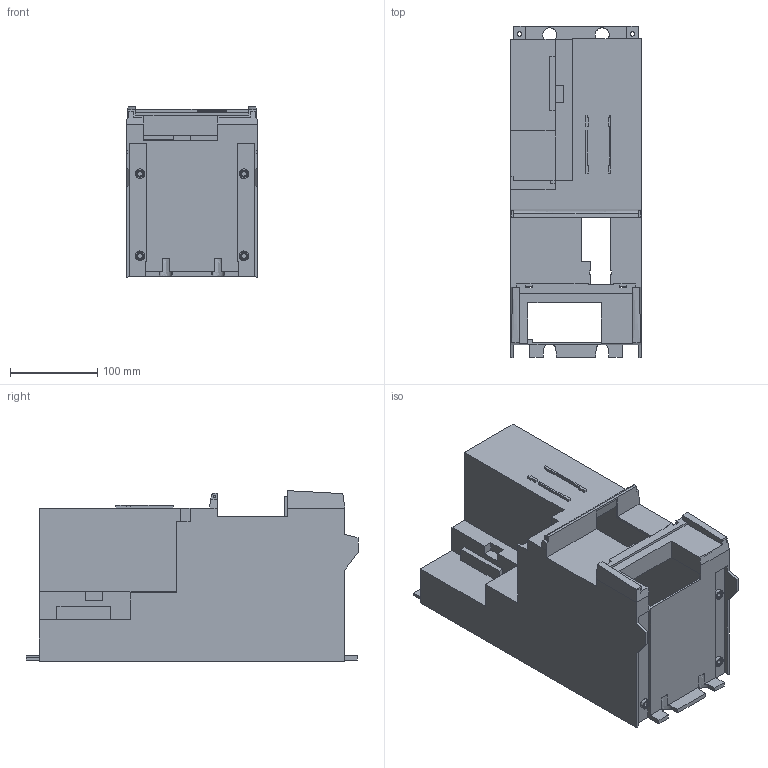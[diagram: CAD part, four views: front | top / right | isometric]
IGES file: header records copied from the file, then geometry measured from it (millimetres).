
Start section:  PTC IGES file: j4-du9-11k-case.igs
Global section: file name: j4-du9-11k-case.igs; native system: Creo Parametric by Parametric Technology Corporation; preprocessor: 2014310; author: JR20012; organization: Unknown; date: 20160927.133802; units: millimetre
Bounding box: 149.8 x 380 x 195.41 mm (x, y, z)
Volume: 593455.5 mm3; surface area: 480166.2 mm2
Topology: 1 solids, 1 shells, 281 faces, 820 edges, 544 vertices
Faces by surface type: bspline 281
